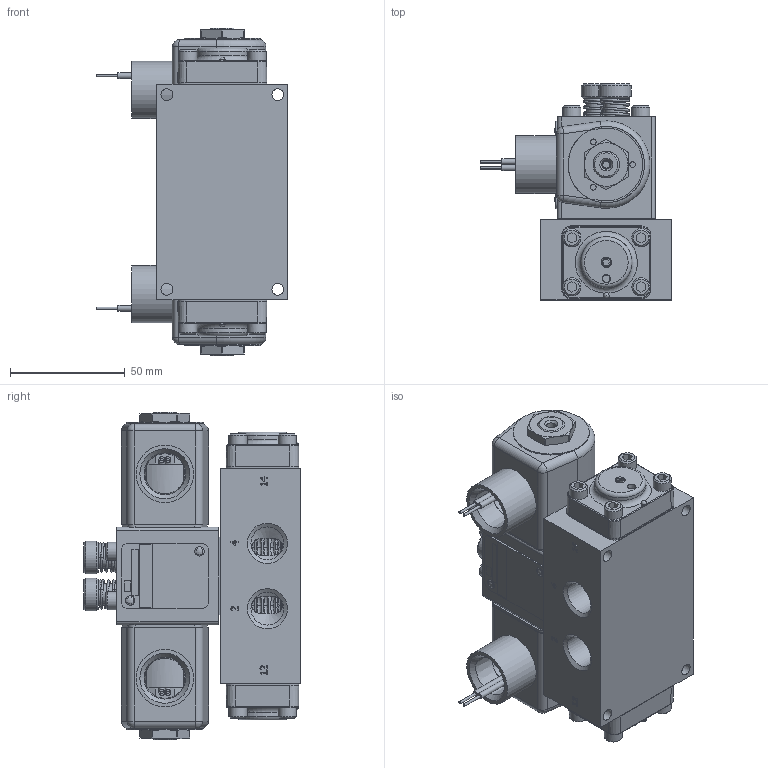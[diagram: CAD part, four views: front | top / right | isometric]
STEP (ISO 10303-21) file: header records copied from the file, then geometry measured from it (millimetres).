
FILE_DESCRIPTION(/* description */ (''),/* implementation_level */ '2;1');
FILE_NAME(/* name */ 'D:\Website Files\stp\Valves\Classic\SY\SY3OP.stp',/* time_stamp */ '2015-08-14T08:15:26-04:00',/* author */ ('RMcKenna'),/* organization */ (''),/* preprocessor_version */ 'ST-DEVELOPER v15.6',/* originating_system */ 'Autodesk Inventor 2015',/* authorisation */ '');
FILE_SCHEMA (('AUTOMOTIVE_DESIGN { 1 0 10303 214 3 1 1 }'));
Products named in the file (1): Part15
Bounding box: 83.65 x 94.34 x 142.88 mm (x, y, z)
Volume: 356229.5 mm3; surface area: 141421.8 mm2
Topology: 6 solids, 39 shells, 1925 faces, 4630 edges, 2945 vertices
Faces by surface type: plane 902, cylinder 412, cone 304, torus 149, bspline 146, sphere 12
Full cylindrical faces by diameter (mm): 1.168 x4, 1.727 x6, 2.07 x2, 2.261 x2, 2.54 x4, 2.778 x2, 3.048 x4, 3.175 x2, 3.302 x2, 3.683 x14, 3.962 x2, 4.366 x10, 4.826 x16, 5.156 x12, 5.159 x5, 5.537 x7, 6.629 x2, 7.938 x12, 7.95 x1, 9.144 x2, 9.462 x2, 9.474 x4, 9.525 x3, 9.728 x1, 11.303 x3, 11.43 x2, 11.633 x2, 11.836 x2, 12.141 x1, 12.598 x2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
Entity records: 60677 total; most frequent: CARTESIAN_POINT 17473, DIRECTION 8301, ORIENTED_EDGE 8146, EDGE_CURVE 4073, AXIS2_PLACEMENT_3D 3139, VERTEX_POINT 2774, EDGE_LOOP 2563, LINE 2023
